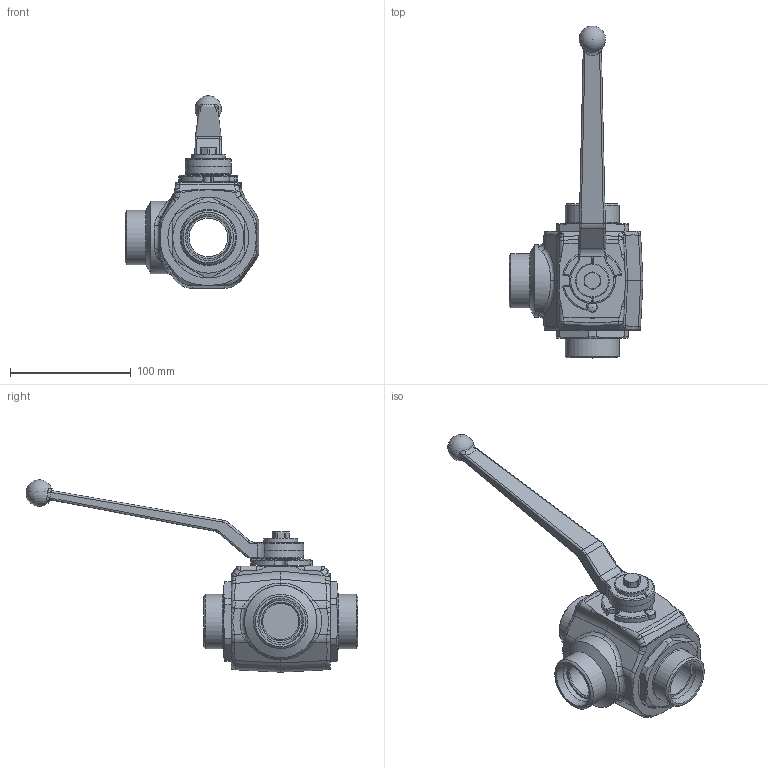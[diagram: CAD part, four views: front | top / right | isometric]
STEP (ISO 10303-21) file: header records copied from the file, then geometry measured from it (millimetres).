
FILE_DESCRIPTION( ( 'Unknown' ), '1' );
FILE_NAME( 'H:/PISTER/3D-MODELLE/SK3 stp/SK3 DN32 35L.stp', 'Unknown', ( 'Unknown' ), ( 'Unknown' ), 'PSStep 14.0', 'Unknown', ' ' );
FILE_SCHEMA( ( 'AUTOMOTIVE_DESIGN { 1 0 10303 214 1 1 1 1 }' ) );
Length unit declared in the file: millimetre
Products named in the file (10): Assem1; 56-032-048-oa9; 58-28740-01; 58-0440-003; 58-0933-163; 09-17-001; 04-032-100-oa10; 04-032-100-oa11; Griff_SW17_; 01-032-109-oa12
Assembly tree (9 placements, depth 2):
  Assem1
    56-032-048-oa9
    58-28740-01
    58-0440-003
    58-0933-163
    09-17-001
    04-032-100-oa10
    04-032-100-oa11
    Griff_SW17_
    01-032-109-oa12
Bounding box: 111 x 274.82 x 159.4 mm (x, y, z)
Volume: 278806.8 mm3; surface area: 105424.2 mm2
Topology: 9 solids, 9 shells, 468 faces, 1171 edges, 716 vertices
Faces by surface type: plane 138, cylinder 131, bspline 110, cone 43, torus 35, sphere 11
Full cylindrical faces by diameter (mm): 6.8 x1, 7.98 x1, 8 x1, 9.2 x1, 24 x2, 28 x1, 30 x1, 32 x3, 35.3 x3, 45 x3, 56.3 x2, 56.35 x2, 60 x1, 67 x2, 69 x2
Entity records: 23491 total; most frequent: CARTESIAN_POINT 9570, ORIENTED_EDGE 2138, DIRECTION 1960, EDGE_CURVE 1069, AXIS2_PLACEMENT_3D 811, VERTEX_POINT 686, EDGE_LOOP 552, FACE_OUTER_BOUND 503
